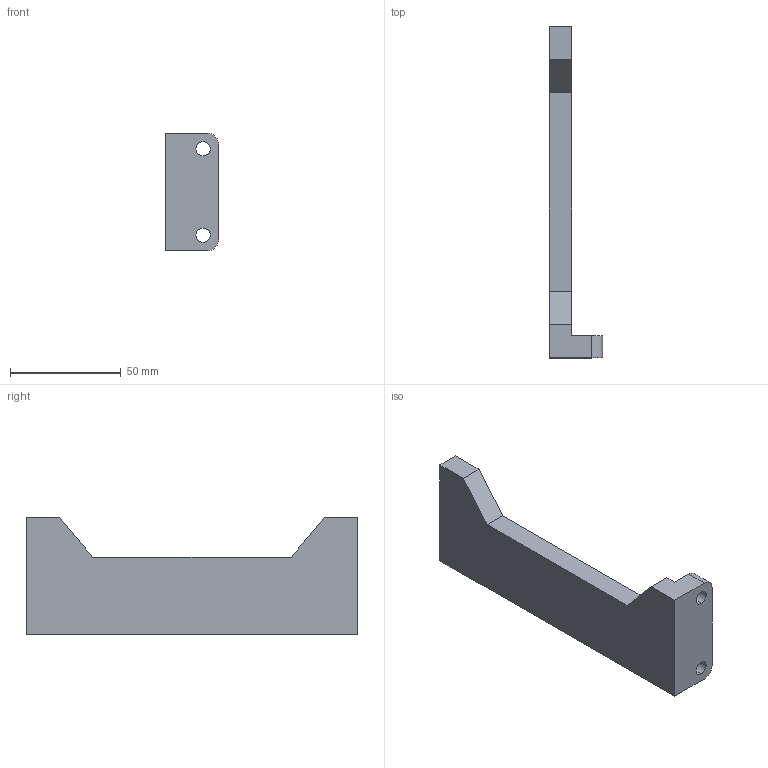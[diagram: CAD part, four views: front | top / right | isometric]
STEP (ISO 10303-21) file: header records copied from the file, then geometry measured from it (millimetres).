
FILE_DESCRIPTION (( 'STEP AP214' ), '1' );
FILE_NAME ('GZ21.31_V1盓傅啣.STEP', '2021-02-28T16:14:02', ( 'hp' ), ( '' ), 'SwSTEP 2.0', 'SolidWorks 2017', '' );
FILE_SCHEMA (( 'AUTOMOTIVE_DESIGN' ));
Length unit declared in the file: millimetre
Products named in the file (1): GZ21.31_V1盓傅啣
Bounding box: 24 x 149.75 x 53 mm (x, y, z)
Volume: 66856.5 mm3; surface area: 18628.7 mm2
Topology: 1 solids, 1 shells, 26 faces, 68 edges, 42 vertices
Faces by surface type: plane 12, cylinder 10, cone 4
Entity records: 858 total; most frequent: DIRECTION 138, CARTESIAN_POINT 133, ORIENTED_EDGE 128, EDGE_CURVE 64, AXIS2_PLACEMENT_3D 47, LINE 44, VECTOR 44, VERTEX_POINT 42
